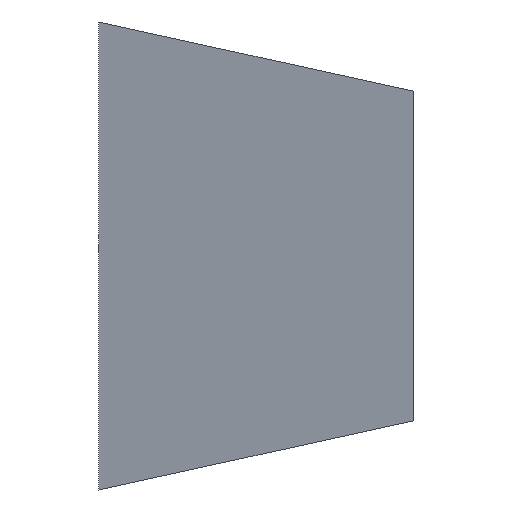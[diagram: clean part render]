
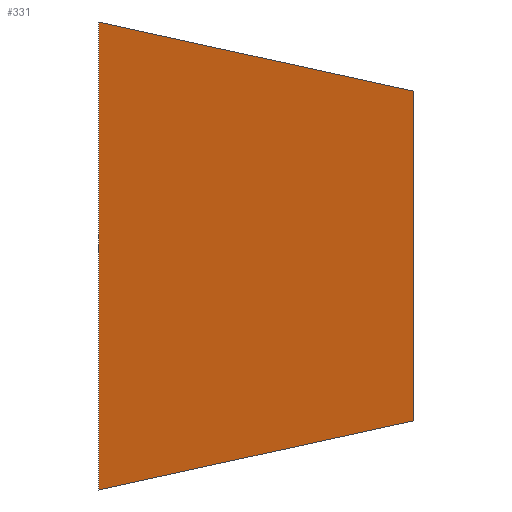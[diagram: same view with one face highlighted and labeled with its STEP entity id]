
A CAD part, front view. The second image highlights one B-rep face of the part: STEP entity #331.
In plain terms, the highlighted planar face has unit normal (-0.233, -0.972, 0).
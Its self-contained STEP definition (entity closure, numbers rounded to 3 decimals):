
#22 = VERTEX_POINT('',#23);
#23 = CARTESIAN_POINT('',(260.,210.,-186.));
#32 = PLANE('',#33);
#33 = AXIS2_PLACEMENT_3D('',#34,#35,#36);
#34 = CARTESIAN_POINT('',(260.,210.,-186.));
#35 = DIRECTION('',(1.,0.,0.));
#36 = DIRECTION('',(0.,0.,1.));
#44 = PLANE('',#45);
#45 = AXIS2_PLACEMENT_3D('',#46,#47,#48);
#46 = CARTESIAN_POINT('',(510.,150.,-131.));
#47 = DIRECTION('',(-0.215,0.,0.977));
#48 = DIRECTION('',(-0.951,0.228,-0.209));
#85 = VERTEX_POINT('',#86);
#86 = CARTESIAN_POINT('',(260.,210.,186.));
#100 = PLANE('',#101);
#101 = AXIS2_PLACEMENT_3D('',#102,#103,#104);
#102 = CARTESIAN_POINT('',(260.,210.,186.));
#103 = DIRECTION('',(-0.215,0.,-0.977));
#104 = DIRECTION('',(0.951,-0.228,-0.209));
#112 = EDGE_CURVE('',#22,#85,#113,.T.);
#113 = SURFACE_CURVE('',#114,(#118,#125),.PCURVE_S1.);
#114 = LINE('',#115,#116);
#115 = CARTESIAN_POINT('',(260.,210.,-186.));
#116 = VECTOR('',#117,1.);
#117 = DIRECTION('',(0.,0.,1.));
#118 = PCURVE('',#32,#119);
#119 = DEFINITIONAL_REPRESENTATION('',(#120),#124);
#120 = LINE('',#121,#122);
#121 = CARTESIAN_POINT('',(0.,0.));
#122 = VECTOR('',#123,1.);
#123 = DIRECTION('',(1.,0.));
#124 = ( GEOMETRIC_REPRESENTATION_CONTEXT(2) 
PARAMETRIC_REPRESENTATION_CONTEXT() REPRESENTATION_CONTEXT('2D SPACE',''
  ) );
#125 = PCURVE('',#126,#131);
#126 = PLANE('',#127);
#127 = AXIS2_PLACEMENT_3D('',#128,#129,#130);
#128 = CARTESIAN_POINT('',(373.145,182.845,0.));
#129 = DIRECTION('',(0.233,0.972,0.));
#130 = DIRECTION('',(0.972,-0.233,0.));
#131 = DEFINITIONAL_REPRESENTATION('',(#132),#136);
#132 = LINE('',#133,#134);
#133 = CARTESIAN_POINT('',(-116.358,186.));
#134 = VECTOR('',#135,1.);
#135 = DIRECTION('',(0.,-1.));
#136 = ( GEOMETRIC_REPRESENTATION_CONTEXT(2) 
PARAMETRIC_REPRESENTATION_CONTEXT() REPRESENTATION_CONTEXT('2D SPACE',''
  ) );
#166 = VERTEX_POINT('',#167);
#167 = CARTESIAN_POINT('',(510.,150.,131.));
#181 = PLANE('',#182);
#182 = AXIS2_PLACEMENT_3D('',#183,#184,#185);
#183 = CARTESIAN_POINT('',(510.,150.,131.));
#184 = DIRECTION('',(-1.,0.,0.));
#185 = DIRECTION('',(0.,0.,-1.));
#193 = EDGE_CURVE('',#85,#166,#194,.T.);
#194 = SURFACE_CURVE('',#195,(#199,#206),.PCURVE_S1.);
#195 = LINE('',#196,#197);
#196 = CARTESIAN_POINT('',(260.,210.,186.));
#197 = VECTOR('',#198,1.);
#198 = DIRECTION('',(0.951,-0.228,-0.209));
#199 = PCURVE('',#100,#200);
#200 = DEFINITIONAL_REPRESENTATION('',(#201),#205);
#201 = LINE('',#202,#203);
#202 = CARTESIAN_POINT('',(0.,0.));
#203 = VECTOR('',#204,1.);
#204 = DIRECTION('',(1.,0.));
#205 = ( GEOMETRIC_REPRESENTATION_CONTEXT(2) 
PARAMETRIC_REPRESENTATION_CONTEXT() REPRESENTATION_CONTEXT('2D SPACE',''
  ) );
#206 = PCURVE('',#126,#207);
#207 = DEFINITIONAL_REPRESENTATION('',(#208),#212);
#208 = LINE('',#209,#210);
#209 = CARTESIAN_POINT('',(-116.358,-186.));
#210 = VECTOR('',#211,1.);
#211 = DIRECTION('',(0.978,0.209));
#212 = ( GEOMETRIC_REPRESENTATION_CONTEXT(2) 
PARAMETRIC_REPRESENTATION_CONTEXT() REPRESENTATION_CONTEXT('2D SPACE',''
  ) );
#242 = VERTEX_POINT('',#243);
#243 = CARTESIAN_POINT('',(510.,150.,-131.));
#264 = EDGE_CURVE('',#166,#242,#265,.T.);
#265 = SURFACE_CURVE('',#266,(#270,#277),.PCURVE_S1.);
#266 = LINE('',#267,#268);
#267 = CARTESIAN_POINT('',(510.,150.,131.));
#268 = VECTOR('',#269,1.);
#269 = DIRECTION('',(0.,0.,-1.));
#270 = PCURVE('',#181,#271);
#271 = DEFINITIONAL_REPRESENTATION('',(#272),#276);
#272 = LINE('',#273,#274);
#273 = CARTESIAN_POINT('',(0.,-0.));
#274 = VECTOR('',#275,1.);
#275 = DIRECTION('',(1.,0.));
#276 = ( GEOMETRIC_REPRESENTATION_CONTEXT(2) 
PARAMETRIC_REPRESENTATION_CONTEXT() REPRESENTATION_CONTEXT('2D SPACE',''
  ) );
#277 = PCURVE('',#126,#278);
#278 = DEFINITIONAL_REPRESENTATION('',(#279),#283);
#279 = LINE('',#280,#281);
#280 = CARTESIAN_POINT('',(140.741,-131.));
#281 = VECTOR('',#282,1.);
#282 = DIRECTION('',(0.,1.));
#283 = ( GEOMETRIC_REPRESENTATION_CONTEXT(2) 
PARAMETRIC_REPRESENTATION_CONTEXT() REPRESENTATION_CONTEXT('2D SPACE',''
  ) );
#311 = EDGE_CURVE('',#242,#22,#312,.T.);
#312 = SURFACE_CURVE('',#313,(#317,#324),.PCURVE_S1.);
#313 = LINE('',#314,#315);
#314 = CARTESIAN_POINT('',(510.,150.,-131.));
#315 = VECTOR('',#316,1.);
#316 = DIRECTION('',(-0.951,0.228,-0.209));
#317 = PCURVE('',#44,#318);
#318 = DEFINITIONAL_REPRESENTATION('',(#319),#323);
#319 = LINE('',#320,#321);
#320 = CARTESIAN_POINT('',(0.,-0.));
#321 = VECTOR('',#322,1.);
#322 = DIRECTION('',(1.,0.));
#323 = ( GEOMETRIC_REPRESENTATION_CONTEXT(2) 
PARAMETRIC_REPRESENTATION_CONTEXT() REPRESENTATION_CONTEXT('2D SPACE',''
  ) );
#324 = PCURVE('',#126,#325);
#325 = DEFINITIONAL_REPRESENTATION('',(#326),#330);
#326 = LINE('',#327,#328);
#327 = CARTESIAN_POINT('',(140.741,131.));
#328 = VECTOR('',#329,1.);
#329 = DIRECTION('',(-0.978,0.209));
#330 = ( GEOMETRIC_REPRESENTATION_CONTEXT(2) 
PARAMETRIC_REPRESENTATION_CONTEXT() REPRESENTATION_CONTEXT('2D SPACE',''
  ) );
#331 = ADVANCED_FACE('',(#332),#126,.F.);
#332 = FACE_BOUND('',#333,.F.);
#333 = EDGE_LOOP('',(#334,#335,#336,#337));
#334 = ORIENTED_EDGE('',*,*,#112,.T.);
#335 = ORIENTED_EDGE('',*,*,#193,.T.);
#336 = ORIENTED_EDGE('',*,*,#264,.T.);
#337 = ORIENTED_EDGE('',*,*,#311,.T.);
